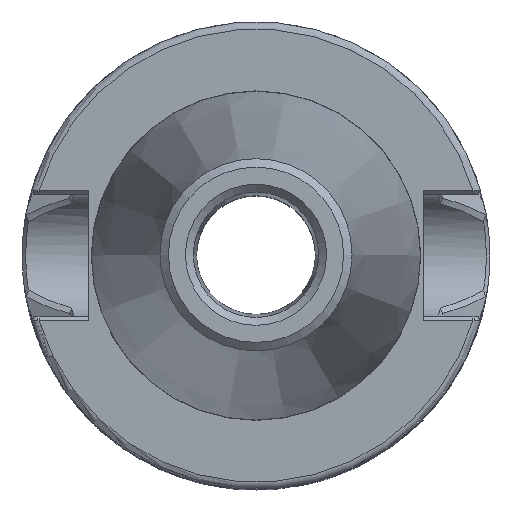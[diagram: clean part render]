
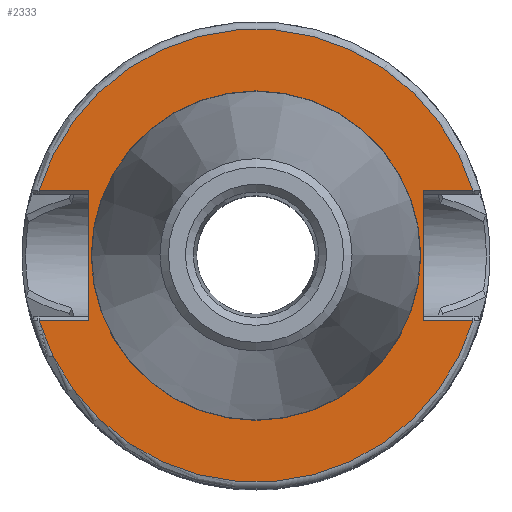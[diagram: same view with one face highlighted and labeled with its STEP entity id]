
A CAD part, top view. The second image highlights one B-rep face of the part: STEP entity #2333.
In plain terms, the highlighted planar face has unit normal (0, 0, 1).
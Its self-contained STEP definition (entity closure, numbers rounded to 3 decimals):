
#99=FACE_BOUND('',#499,.T.);
#374=FACE_OUTER_BOUND('',#498,.T.);
#498=EDGE_LOOP('',(#2038,#2039,#2040,#2041,#2042,#2043,#2044,#2045));
#499=EDGE_LOOP('',(#2046,#2047));
#588=LINE('',#3663,#707);
#606=LINE('',#4250,#725);
#613=LINE('',#4453,#732);
#627=LINE('',#4937,#746);
#632=LINE('',#4975,#751);
#633=LINE('',#4977,#752);
#707=VECTOR('',#2882,10.);
#725=VECTOR('',#2910,10.);
#732=VECTOR('',#2965,10.);
#746=VECTOR('',#2989,10.);
#751=VECTOR('',#3008,10.);
#752=VECTOR('',#3011,10.);
#831=CIRCLE('',#2531,30.5);
#832=CIRCLE('',#2539,30.5);
#834=CIRCLE('',#2546,22.188);
#835=CIRCLE('',#2547,22.188);
#981=VERTEX_POINT('',#3660);
#982=VERTEX_POINT('',#3662);
#1025=VERTEX_POINT('',#4243);
#1028=VERTEX_POINT('',#4248);
#1053=VERTEX_POINT('',#4429);
#1056=VERTEX_POINT('',#4452);
#1075=VERTEX_POINT('',#4930);
#1078=VERTEX_POINT('',#4935);
#1081=VERTEX_POINT('',#4978);
#1082=VERTEX_POINT('',#4979);
#1268=EDGE_CURVE('',#981,#982,#588,.T.);
#1327=EDGE_CURVE('',#1028,#1025,#606,.T.);
#1366=EDGE_CURVE('',#1025,#1053,#831,.T.);
#1370=EDGE_CURVE('',#1053,#1056,#613,.T.);
#1407=EDGE_CURVE('',#1078,#1075,#627,.T.);
#1410=EDGE_CURVE('',#1075,#981,#832,.T.);
#1416=EDGE_CURVE('',#1028,#982,#632,.T.);
#1417=EDGE_CURVE('',#1078,#1056,#633,.T.);
#1418=EDGE_CURVE('',#1081,#1082,#834,.T.);
#1419=EDGE_CURVE('',#1082,#1081,#835,.T.);
#2038=ORIENTED_EDGE('',*,*,#1268,.F.);
#2039=ORIENTED_EDGE('',*,*,#1410,.F.);
#2040=ORIENTED_EDGE('',*,*,#1407,.F.);
#2041=ORIENTED_EDGE('',*,*,#1417,.T.);
#2042=ORIENTED_EDGE('',*,*,#1370,.F.);
#2043=ORIENTED_EDGE('',*,*,#1366,.F.);
#2044=ORIENTED_EDGE('',*,*,#1327,.F.);
#2045=ORIENTED_EDGE('',*,*,#1416,.T.);
#2046=ORIENTED_EDGE('',*,*,#1418,.F.);
#2047=ORIENTED_EDGE('',*,*,#1419,.F.);
#2228=PLANE('',#2545);
#2333=ADVANCED_FACE('',(#374,#99),#2228,.T.);
#2531=AXIS2_PLACEMENT_3D('',#4430,#2960,#2961);
#2539=AXIS2_PLACEMENT_3D('',#4963,#2992,#2993);
#2545=AXIS2_PLACEMENT_3D('',#4976,#3009,#3010);
#2546=AXIS2_PLACEMENT_3D('',#4980,#3012,#3013);
#2547=AXIS2_PLACEMENT_3D('',#4981,#3014,#3015);
#2882=DIRECTION('',(1.,0.,0.));
#2910=DIRECTION('',(-1.,0.,0.));
#2960=DIRECTION('center_axis',(0.,0.,-1.));
#2961=DIRECTION('ref_axis',(-1.,0.,0.));
#2965=DIRECTION('',(-1.,0.,0.));
#2989=DIRECTION('',(1.,0.,0.));
#2992=DIRECTION('center_axis',(0.,0.,-1.));
#2993=DIRECTION('ref_axis',(-1.,0.,0.));
#3008=DIRECTION('',(0.,-1.,0.));
#3009=DIRECTION('center_axis',(0.,0.,1.));
#3010=DIRECTION('ref_axis',(1.,0.,0.));
#3011=DIRECTION('',(0.,1.,0.));
#3012=DIRECTION('center_axis',(0.,0.,1.));
#3013=DIRECTION('ref_axis',(-1.,0.,0.));
#3014=DIRECTION('center_axis',(0.,0.,1.));
#3015=DIRECTION('ref_axis',(-1.,0.,0.));
#3660=CARTESIAN_POINT('',(-29.218,-8.75,-67.5));
#3662=CARTESIAN_POINT('',(-22.5,-8.75,-67.5));
#3663=CARTESIAN_POINT('',(-5.,-8.75,-67.5));
#4243=CARTESIAN_POINT('',(-29.218,8.75,-67.5));
#4248=CARTESIAN_POINT('',(-22.5,8.75,-67.5));
#4250=CARTESIAN_POINT('',(-5.,8.75,-67.5));
#4429=CARTESIAN_POINT('',(29.218,8.75,-67.5));
#4430=CARTESIAN_POINT('Origin',(0.,0.,-67.5));
#4452=CARTESIAN_POINT('',(22.5,8.75,-67.5));
#4453=CARTESIAN_POINT('',(26.5,8.75,-67.5));
#4930=CARTESIAN_POINT('',(29.218,-8.75,-67.5));
#4935=CARTESIAN_POINT('',(22.5,-8.75,-67.5));
#4937=CARTESIAN_POINT('',(26.5,-8.75,-67.5));
#4963=CARTESIAN_POINT('Origin',(0.,0.,-67.5));
#4975=CARTESIAN_POINT('',(-22.5,0.,-67.5));
#4976=CARTESIAN_POINT('Origin',(21.5,0.,-67.5));
#4977=CARTESIAN_POINT('',(22.5,0.,-67.5));
#4978=CARTESIAN_POINT('',(22.188,0.,-67.5));
#4979=CARTESIAN_POINT('',(-22.188,0.,-67.5));
#4980=CARTESIAN_POINT('Origin',(0.,0.,-67.5));
#4981=CARTESIAN_POINT('Origin',(0.,0.,-67.5));
